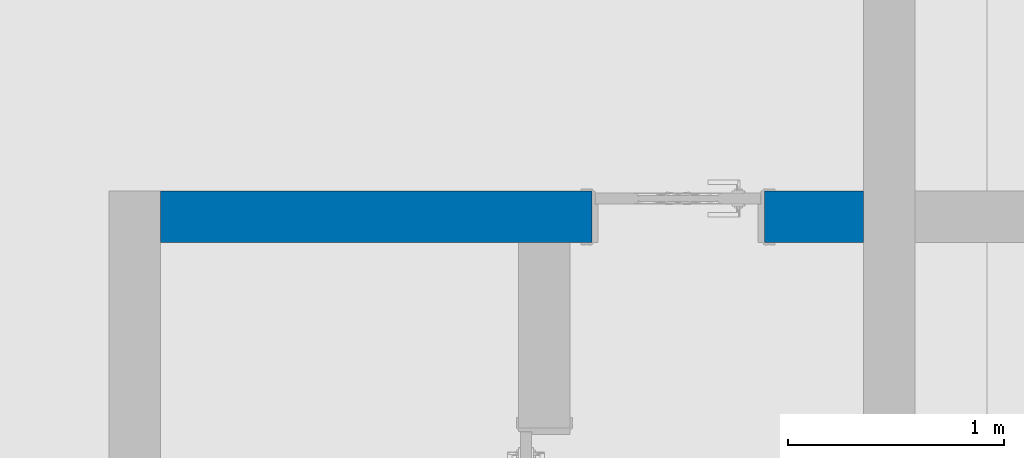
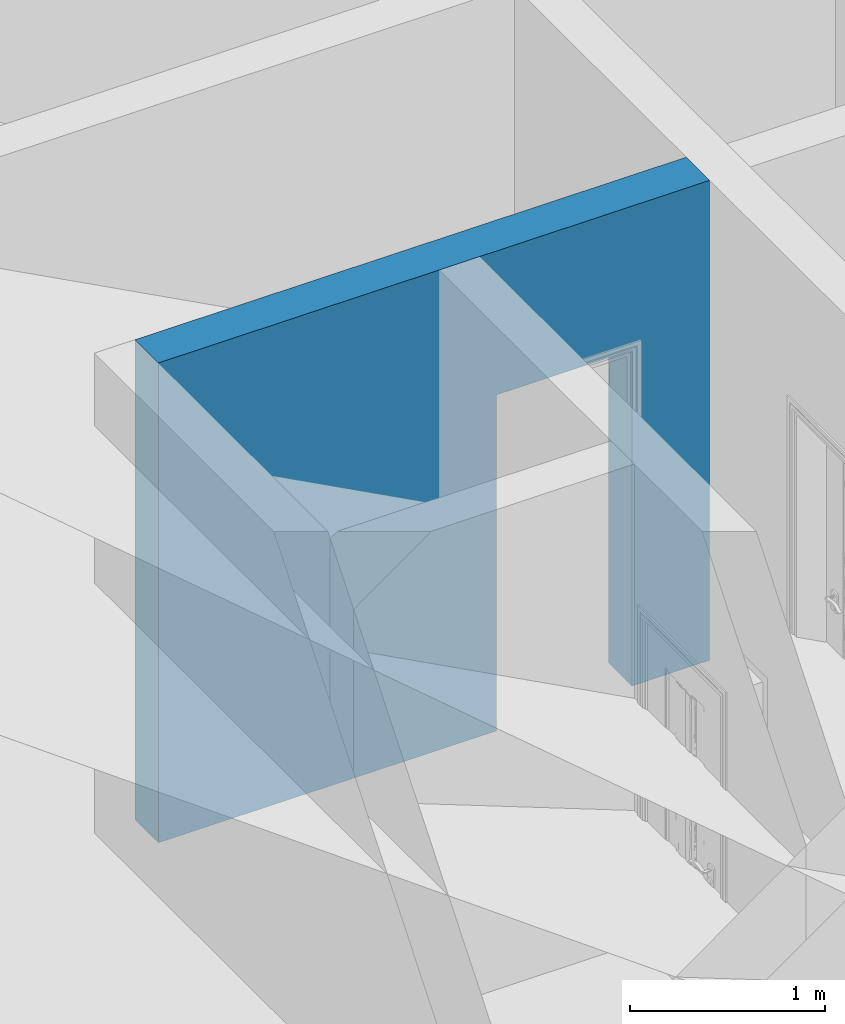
# One storey, part 63 of 82: 1 wall, 1 opening.
"""IFC2X3 building model written with IfcOpenShell, lengths in millimetres."""

from ifc_helpers import new_model, entity, si_unit, converted_unit, derived_unit, direction, frame, frame_2d, origin, place, context, subcontext, project, spatial, rectangle, extrude, material, layer, layer_set, layer_usage, type_object, element, save


model = new_model("IFC2X3")

# Units and contexts
model_context = context("Model", 3, precision=0.01, world=origin(), true_north=direction((6.12303176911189e-17, 1.0)))
body_context = subcontext(model_context, "Body", "Model", "MODEL_VIEW")
ifc_project = project(units=[si_unit("LENGTHUNIT", "METRE", prefix="MILLI"), si_unit("AREAUNIT", "SQUARE_METRE"), si_unit("VOLUMEUNIT", "CUBIC_METRE"), converted_unit("PLANEANGLEUNIT", "DEGREE", entity("IfcRatioMeasure", 0.0174532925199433), si_unit("PLANEANGLEUNIT", "RADIAN"), dimensions=[0, 0, 0, 0, 0, 0, 0]), si_unit("MASSUNIT", "GRAM", prefix="KILO"), derived_unit("MASSDENSITYUNIT", [(si_unit("MASSUNIT", "GRAM", prefix="KILO"), 1), (si_unit("LENGTHUNIT", "METRE"), -3)]), si_unit("TIMEUNIT", "SECOND"), si_unit("FREQUENCYUNIT", "HERTZ"), si_unit("THERMODYNAMICTEMPERATUREUNIT", "DEGREE_CELSIUS"), derived_unit("THERMALTRANSMITTANCEUNIT", [(si_unit("MASSUNIT", "GRAM", prefix="KILO"), 1), (si_unit("THERMODYNAMICTEMPERATUREUNIT", "KELVIN"), -1), (si_unit("TIMEUNIT", "SECOND"), -3)]), derived_unit("VOLUMETRICFLOWRATEUNIT", [(si_unit("LENGTHUNIT", "METRE"), 3), (si_unit("TIMEUNIT", "SECOND"), -1)]), si_unit("ELECTRICCURRENTUNIT", "AMPERE"), si_unit("ELECTRICVOLTAGEUNIT", "VOLT"), si_unit("POWERUNIT", "WATT"), si_unit("FORCEUNIT", "NEWTON", prefix="KILO"), si_unit("ILLUMINANCEUNIT", "LUX"), si_unit("LUMINOUSFLUXUNIT", "LUMEN"), si_unit("LUMINOUSINTENSITYUNIT", "CANDELA"), derived_unit("USERDEFINED", [(si_unit("MASSUNIT", "GRAM", prefix="KILO"), -1), (si_unit("LENGTHUNIT", "METRE"), -2), (si_unit("TIMEUNIT", "SECOND"), 3), (si_unit("LUMINOUSFLUXUNIT", "LUMEN"), 1)]), derived_unit("LINEARVELOCITYUNIT", [(si_unit("LENGTHUNIT", "METRE"), 1), (si_unit("TIMEUNIT", "SECOND"), -1)]), si_unit("PRESSUREUNIT", "PASCAL"), derived_unit("USERDEFINED", [(si_unit("LENGTHUNIT", "METRE"), -2), (si_unit("MASSUNIT", "GRAM", prefix="KILO"), 1), (si_unit("TIMEUNIT", "SECOND"), -2)])], contexts=[model_context])

# Site, building, storey
site_placement = place(None, origin())
site = spatial("IfcSite", under=ifc_project, at=site_placement, Name="表面", CompositionType="ELEMENT")
building_placement = place(site_placement, origin())
building = spatial("IfcBuilding", under=site, at=building_placement, CompositionType="ELEMENT")
storey_placement = place(building_placement, origin())
storey = spatial("IfcBuildingStorey", under=building, at=storey_placement, Name="1F", CompositionType="ELEMENT", Elevation=0.0)

# Wall, opening
ifc_material_1 = material(Name="白色涂料")
ifc_layer_1 = layer(ifc_material_1, 10.0)
ifc_material_2 = material(Name="默认墙")
ifc_layer_2 = layer(ifc_material_2, 220.0)
ifc_layer_3 = layer(ifc_material_1, 10.0)
ifc_layer_set = layer_set([ifc_layer_1, ifc_layer_2, ifc_layer_3], Name="基本墙:粉刷墙240")
ifc_layer_usage = layer_usage(ifc_layer_set, "AXIS2", "NEGATIVE", 120.0)
wall_type = type_object("IfcWallType", Name="基本墙:粉刷墙240", PredefinedType="STANDARD", material=ifc_layer_set)
wall_placement = place(storey_placement, frame((-11910.2499126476, 1683.13157334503, 0.0)))
wall = element("IfcWallStandardCase", 1, at=wall_placement, inside=storey, type_object=wall_type, material=ifc_layer_usage, Name="基本墙:粉刷墙240", ObjectType="基本墙:粉刷墙240", context=body_context, shape_type="SweptSolid", body=[
    extrude(rectangle(XDim=3260.00000000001, YDim=240.0, at=frame_2d((1630.00000000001, 2.8421709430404e-14), x_axis=(-1.0, 0.0))), origin(), (0.0, 0.0, 1.0), 3000.00000000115),
])
opening_placement = place(wall_placement, frame((2000.0, -120.0, 0.0)))
element("IfcOpeningElement", 2, at=opening_placement, cuts=wall, Name="装饰木门:M0821:1", ObjectType="Opening", context=body_context, shape_type="SweptSolid", body=[
    extrude(rectangle(XDim=2099.99999999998, YDim=800.0, at=frame_2d((1049.99999999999, 400.0), x_axis=(1.0, 0.0))), frame((0.0, 0.0, 0.0), z_axis=(0.0, 1.0, 0.0), x_axis=(0.0, 0.0, 1.0)), (0.0, 0.0, 1.0), 240.0),
])

save(model, "model.ifc")
